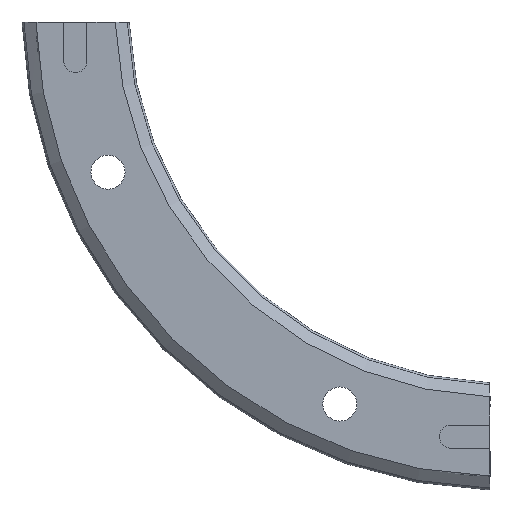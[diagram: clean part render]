
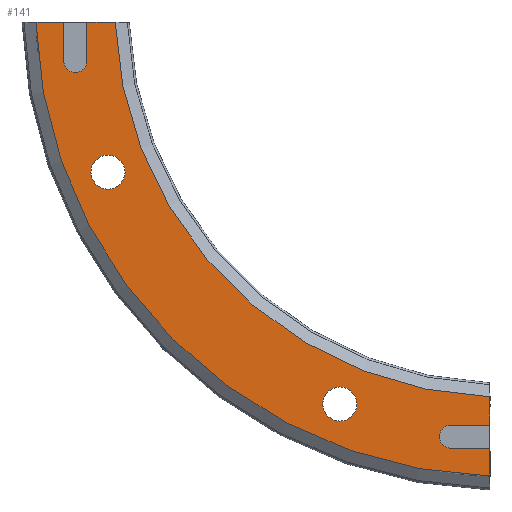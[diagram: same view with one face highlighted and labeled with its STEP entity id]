
A CAD part, front view. The second image highlights one B-rep face of the part: STEP entity #141.
In plain terms, the highlighted planar face has unit normal (0, -1, 0).
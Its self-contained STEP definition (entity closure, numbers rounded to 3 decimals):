
#141 = ADVANCED_FACE( '', ( #296, #297, #298 ), #299, .T. );
#296 = FACE_BOUND( '', #454, .T. );
#297 = FACE_BOUND( '', #455, .T. );
#298 = FACE_OUTER_BOUND( '', #456, .T. );
#299 = PLANE( '', #457 );
#454 = EDGE_LOOP( '', ( #960 ) );
#455 = EDGE_LOOP( '', ( #961 ) );
#456 = EDGE_LOOP( '', ( #962, #963, #964, #965, #966, #967, #968, #969, #970, #971, #972, #973 ) );
#457 = AXIS2_PLACEMENT_3D( '', #974, #975, #976 );
#960 = ORIENTED_EDGE( '', *, *, #1028, .F. );
#961 = ORIENTED_EDGE( '', *, *, #1032, .F. );
#962 = ORIENTED_EDGE( '', *, *, #1013, .T. );
#963 = ORIENTED_EDGE( '', *, *, #1018, .T. );
#964 = ORIENTED_EDGE( '', *, *, #1041, .T. );
#965 = ORIENTED_EDGE( '', *, *, #1037, .T. );
#966 = ORIENTED_EDGE( '', *, *, #986, .T. );
#967 = ORIENTED_EDGE( '', *, *, #1027, .T. );
#968 = ORIENTED_EDGE( '', *, *, #1025, .T. );
#969 = ORIENTED_EDGE( '', *, *, #1023, .T. );
#970 = ORIENTED_EDGE( '', *, *, #1002, .T. );
#971 = ORIENTED_EDGE( '', *, *, #1133, .F. );
#972 = ORIENTED_EDGE( '', *, *, #1042, .T. );
#973 = ORIENTED_EDGE( '', *, *, #1016, .T. );
#974 = CARTESIAN_POINT( '', ( -42.2, 0., 0. ) );
#975 = DIRECTION( '', ( 0., -1., 0. ) );
#976 = DIRECTION( '', ( 0., 0., -1. ) );
#986 = EDGE_CURVE( '', #1149, #1147, #1150, .T. );
#1002 = EDGE_CURVE( '', #1181, #1179, #1182, .T. );
#1013 = EDGE_CURVE( '', #1201, #1202, #1203, .T. );
#1016 = EDGE_CURVE( '', #1206, #1201, #1207, .T. );
#1018 = EDGE_CURVE( '', #1202, #1209, #1210, .T. );
#1023 = EDGE_CURVE( '', #1217, #1181, #1218, .T. );
#1025 = EDGE_CURVE( '', #1220, #1217, #1221, .T. );
#1027 = EDGE_CURVE( '', #1147, #1220, #1223, .T. );
#1028 = EDGE_CURVE( '', #1224, #1224, #1225, .T. );
#1032 = EDGE_CURVE( '', #1232, #1232, #1233, .T. );
#1037 = EDGE_CURVE( '', #1242, #1149, #1243, .T. );
#1041 = EDGE_CURVE( '', #1209, #1242, #1249, .T. );
#1042 = EDGE_CURVE( '', #1250, #1206, #1251, .T. );
#1133 = EDGE_CURVE( '', #1250, #1179, #1405, .T. );
#1147 = VERTEX_POINT( '', #1420 );
#1149 = VERTEX_POINT( '', #1423 );
#1150 = LINE( '', #1424, #1425 );
#1179 = VERTEX_POINT( '', #1490 );
#1181 = VERTEX_POINT( '', #1493 );
#1182 = LINE( '', #1494, #1495 );
#1201 = VERTEX_POINT( '', #1558 );
#1202 = VERTEX_POINT( '', #1559 );
#1203 = CIRCLE( '', #1560, 1.25 );
#1206 = VERTEX_POINT( '', #1565 );
#1207 = LINE( '', #1566, #1567 );
#1209 = VERTEX_POINT( '', #1570 );
#1210 = LINE( '', #1571, #1572 );
#1217 = VERTEX_POINT( '', #1582 );
#1218 = LINE( '', #1583, #1584 );
#1220 = VERTEX_POINT( '', #1587 );
#1221 = CIRCLE( '', #1588, 1.25 );
#1223 = LINE( '', #1591, #1592 );
#1224 = VERTEX_POINT( '', #1593 );
#1225 = CIRCLE( '', #1594, 1.85 );
#1232 = VERTEX_POINT( '', #1601 );
#1233 = CIRCLE( '', #1602, 1.85 );
#1242 = VERTEX_POINT( '', #1648 );
#1243 = CIRCLE( '', #1649, 50.8 );
#1249 = LINE( '', #1693, #1694 );
#1250 = VERTEX_POINT( '', #1695 );
#1251 = LINE( '', #1696, #1697 );
#1405 = CIRCLE( '', #1995, 42.2 );
#1420 = CARTESIAN_POINT( '', ( -1.5, 0., -47.75 ) );
#1423 = CARTESIAN_POINT( '', ( -1.5, 0., -50.778 ) );
#1424 = CARTESIAN_POINT( '', ( -1.5, 0., -52.685 ) );
#1425 = VECTOR( '', #2008, 1000. );
#1490 = CARTESIAN_POINT( '', ( -1.5, 0., -42.173 ) );
#1493 = CARTESIAN_POINT( '', ( -1.5, 0., -45.25 ) );
#1494 = CARTESIAN_POINT( '', ( -1.5, 0., -52.685 ) );
#1495 = VECTOR( '', #2018, 1000. );
#1558 = CARTESIAN_POINT( '', ( -45.25, 0., -5.75 ) );
#1559 = CARTESIAN_POINT( '', ( -47.75, 0., -5.75 ) );
#1560 = AXIS2_PLACEMENT_3D( '', #2035, #2036, #2037 );
#1565 = CARTESIAN_POINT( '', ( -45.25, 0., -1.5 ) );
#1566 = CARTESIAN_POINT( '', ( -45.25, 0., 0. ) );
#1567 = VECTOR( '', #2040, 1000. );
#1570 = CARTESIAN_POINT( '', ( -47.75, 0., -1.5 ) );
#1571 = CARTESIAN_POINT( '', ( -47.75, 0., -5.75 ) );
#1572 = VECTOR( '', #2042, 1000. );
#1582 = CARTESIAN_POINT( '', ( -5.75, 0., -45.25 ) );
#1583 = CARTESIAN_POINT( '', ( -5.75, 0., -45.25 ) );
#1584 = VECTOR( '', #2049, 1000. );
#1587 = CARTESIAN_POINT( '', ( -5.75, 0., -47.75 ) );
#1588 = AXIS2_PLACEMENT_3D( '', #2051, #2052, #2053 );
#1591 = CARTESIAN_POINT( '', ( 0., 0., -47.75 ) );
#1592 = VECTOR( '', #2055, 1000. );
#1593 = CARTESIAN_POINT( '', ( -42.96, 0., -19.645 ) );
#1594 = AXIS2_PLACEMENT_3D( '', #2056, #2057, #2058 );
#1601 = CARTESIAN_POINT( '', ( -17.795, 0., -44.81 ) );
#1602 = AXIS2_PLACEMENT_3D( '', #2068, #2069, #2070 );
#1648 = CARTESIAN_POINT( '', ( -50.778, 0., -1.5 ) );
#1649 = AXIS2_PLACEMENT_3D( '', #2080, #2081, #2082 );
#1693 = CARTESIAN_POINT( '', ( -1.5, 0., -1.5 ) );
#1694 = VECTOR( '', #2087, 1000. );
#1695 = CARTESIAN_POINT( '', ( -42.173, 0., -1.5 ) );
#1696 = CARTESIAN_POINT( '', ( -1.5, 0., -1.5 ) );
#1697 = VECTOR( '', #2088, 1000. );
#1995 = AXIS2_PLACEMENT_3D( '', #2181, #2182, #2183 );
#2008 = DIRECTION( '', ( 0., 0., 1. ) );
#2018 = DIRECTION( '', ( 0., 0., 1. ) );
#2035 = CARTESIAN_POINT( '', ( -46.5, 0., -5.75 ) );
#2036 = DIRECTION( '', ( 0., 1., 0. ) );
#2037 = DIRECTION( '', ( 1., 0., 0. ) );
#2040 = DIRECTION( '', ( 0., 0., -1. ) );
#2042 = DIRECTION( '', ( 0., 0., 1. ) );
#2049 = DIRECTION( '', ( 1., 0., 0. ) );
#2051 = CARTESIAN_POINT( '', ( -5.75, 0., -46.5 ) );
#2052 = DIRECTION( '', ( 0., 1., 0. ) );
#2053 = DIRECTION( '', ( 1., 0., 0. ) );
#2055 = DIRECTION( '', ( -1., 0., 0. ) );
#2056 = CARTESIAN_POINT( '', ( -42.96, 0., -17.795 ) );
#2057 = DIRECTION( '', ( 0., -1., 0. ) );
#2058 = DIRECTION( '', ( 0., 0., -1. ) );
#2068 = CARTESIAN_POINT( '', ( -17.795, 0., -42.96 ) );
#2069 = DIRECTION( '', ( 0., -1., 0. ) );
#2070 = DIRECTION( '', ( 0., 0., -1. ) );
#2080 = CARTESIAN_POINT( '', ( 0., 0., 0. ) );
#2081 = DIRECTION( '', ( 0., -1., 0. ) );
#2082 = DIRECTION( '', ( 0., 0., -1. ) );
#2087 = DIRECTION( '', ( -1., 0., 0. ) );
#2088 = DIRECTION( '', ( -1., 0., 0. ) );
#2181 = CARTESIAN_POINT( '', ( 0., 0., 0. ) );
#2182 = DIRECTION( '', ( 0., -1., 0. ) );
#2183 = DIRECTION( '', ( 0., 0., -1. ) );
